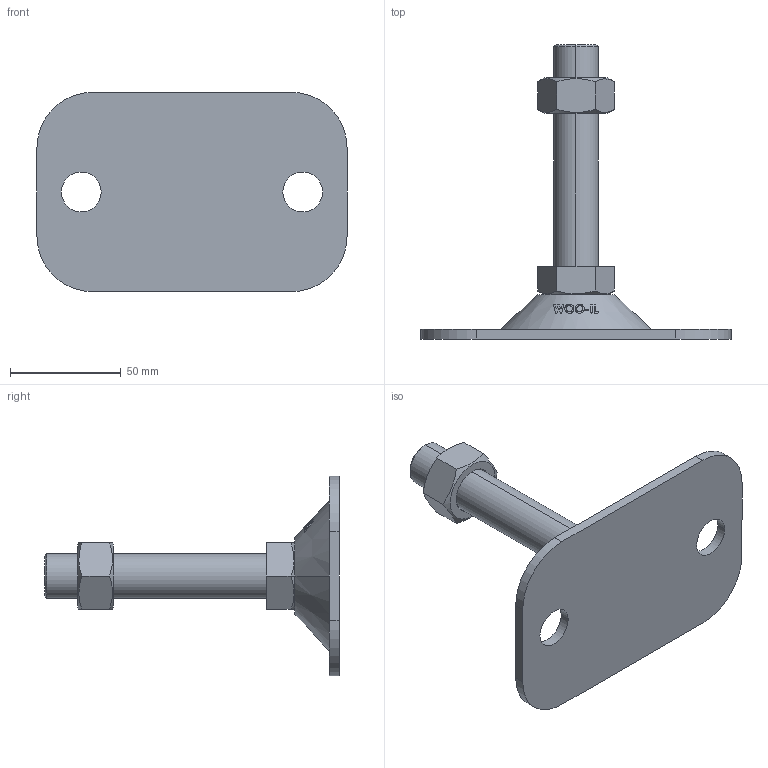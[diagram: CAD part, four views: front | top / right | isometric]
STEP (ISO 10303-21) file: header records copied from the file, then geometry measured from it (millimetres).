
FILE_DESCRIPTION (( 'STEP AP214' ), '1' );
FILE_NAME ('FABL90140-M20-100.step', '2021-03-28T23:53:13', ( '' ), ( '' ), 'SwSTEP 2.0', 'SolidWorks 2019', '' );
FILE_SCHEMA (( 'AUTOMOTIVE_DESIGN' ));
Length unit declared in the file: millimetre
Products named in the file (2): FABL90140-M20-100
Bounding box: 140 x 133 x 90 mm (x, y, z)
Volume: 134091.2 mm3; surface area: 37804.8 mm2
Topology: 2 solids, 2 shells, 130 faces, 337 edges, 222 vertices
Faces by surface type: plane 50, cylinder 40, cone 22, bspline 18
Entity records: 5615 total; most frequent: CARTESIAN_POINT 2637, ORIENTED_EDGE 674, DIRECTION 485, EDGE_CURVE 337, VERTEX_POINT 222, AXIS2_PLACEMENT_3D 178, EDGE_LOOP 147, B_SPLINE_CURVE_WITH_KNOTS 144
